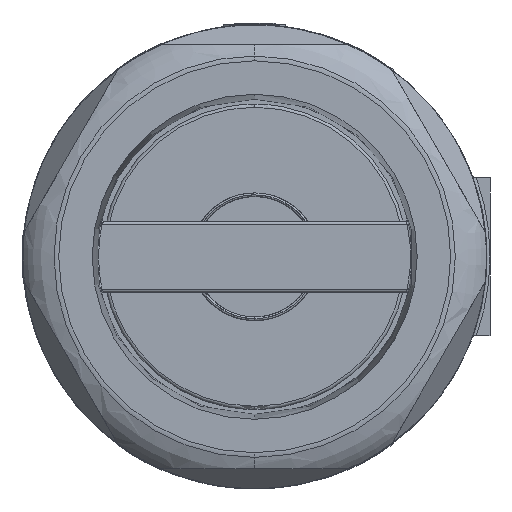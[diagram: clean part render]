
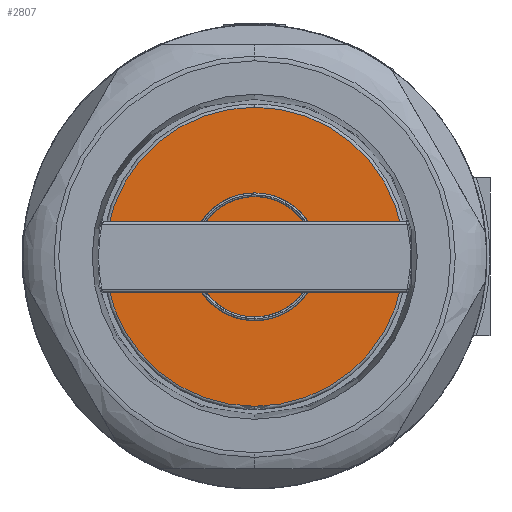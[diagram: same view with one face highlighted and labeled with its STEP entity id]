
A CAD part, left-side view. The second image highlights one B-rep face of the part: STEP entity #2807.
In plain terms, the highlighted planar face has unit normal (-1, 0, 0).
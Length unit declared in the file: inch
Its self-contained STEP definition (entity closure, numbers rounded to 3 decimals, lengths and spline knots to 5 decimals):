
#4 = CARTESIAN_POINT ( 'NONE',  ( 0.35805, 0.05339, -0.18781 ) ) ;
#45 = EDGE_CURVE ( 'NONE', #4487, #10738, #5266, .T. ) ;
#154 = AXIS2_PLACEMENT_3D ( 'NONE', #212, #6413, #12563 ) ;
#185 = CIRCLE ( 'NONE', #1043, 0.10748 ) ;
#212 = CARTESIAN_POINT ( 'NONE',  ( 0.35805, 0., 0. ) ) ;
#275 = LINE ( 'NONE', #4397, #10030 ) ;
#514 = CARTESIAN_POINT ( 'NONE',  ( 0.35805, 0.09036, -0.17923 ) ) ;
#580 = CARTESIAN_POINT ( 'NONE',  ( 0.35805, 0.08737, -0.18197 ) ) ;
#656 = CARTESIAN_POINT ( 'NONE',  ( 0.35805, 0.48308, 0. ) ) ;
#679 = CARTESIAN_POINT ( 'NONE',  ( 0.35805, 0.08878, -0.178 ) ) ;
#848 = DIRECTION ( 'NONE',  ( 0., 0., -1. ) ) ;
#889 = CARTESIAN_POINT ( 'NONE',  ( 0.35805, 0., -0.194 ) ) ;
#1043 = AXIS2_PLACEMENT_3D ( 'NONE', #8118, #1776, #3825 ) ;
#1200 = B_SPLINE_CURVE_WITH_KNOTS ( 'NONE', 3,
 ( #1751, #3675, #11835, #1676, #9839, #679, #13154, #7353, #6066, #9160, #9363, #2070, #9092, #11236, #4, #8286, #5135, #3198 ),
 .UNSPECIFIED., .F., .F.,
 ( 4, 2, 2, 2, 2, 2, 2, 2, 4 ),
 ( 0.00247, 0.00249, 0.00251, 0.00254, 0.00262, 0.00277, 0.00306, 0.00366, 0.00485 ),
 .UNSPECIFIED. ) ;
#1414 = VERTEX_POINT ( 'NONE', #8679 ) ;
#1584 = CARTESIAN_POINT ( 'NONE',  ( 0.35805, 0.03229, -0.20388 ) ) ;
#1676 = CARTESIAN_POINT ( 'NONE',  ( 0.35805, 0.08975, -0.17794 ) ) ;
#1722 = VERTEX_POINT ( 'NONE', #3177 ) ;
#1751 = CARTESIAN_POINT ( 'NONE',  ( 0.35805, 0.09062, -0.17829 ) ) ;
#1776 = DIRECTION ( 'NONE',  ( -1., 0., 0. ) ) ;
#2070 = CARTESIAN_POINT ( 'NONE',  ( 0.35805, 0.07572, -0.18158 ) ) ;
#2331 = ORIENTED_EDGE ( 'NONE', *, *, #11867, .T. ) ;
#2398 = VERTEX_POINT ( 'NONE', #889 ) ;
#2519 = CARTESIAN_POINT ( 'NONE',  ( 0.35805, 0.0779, -0.18788 ) ) ;
#2523 = FACE_BOUND ( 'NONE', #3318, .T. ) ;
#2807 = ADVANCED_FACE ( 'NONE', ( #2523, #5714, #6650 ), #10761, .F. ) ;
#3177 = CARTESIAN_POINT ( 'NONE',  ( 0.35805, 0., -0.206 ) ) ;
#3198 = CARTESIAN_POINT ( 'NONE',  ( 0.35805, 0., -0.194 ) ) ;
#3284 = EDGE_CURVE ( 'NONE', #1414, #12216, #185, .T. ) ;
#3318 = EDGE_LOOP ( 'NONE', ( #12219, #3567, #5896 ) ) ;
#3498 = CARTESIAN_POINT ( 'NONE',  ( 0.35805, 0., -0.48308 ) ) ;
#3512 = CARTESIAN_POINT ( 'NONE',  ( 0.35805, 0.0902, -0.17943 ) ) ;
#3567 = ORIENTED_EDGE ( 'NONE', *, *, #10325, .T. ) ;
#3675 = CARTESIAN_POINT ( 'NONE',  ( 0.35805, 0.09051, -0.17807 ) ) ;
#3713 = CARTESIAN_POINT ( 'NONE',  ( 0.35805, 0.08488, -0.18373 ) ) ;
#3771 = EDGE_CURVE ( 'NONE', #12216, #1414, #7669, .T. ) ;
#3825 = DIRECTION ( 'NONE',  ( 0., 0., 1. ) ) ;
#3876 = CARTESIAN_POINT ( 'NONE',  ( 0.35805, 0., 0. ) ) ;
#4397 = CARTESIAN_POINT ( 'NONE',  ( 0.35805, 0., 0. ) ) ;
#4487 = VERTEX_POINT ( 'NONE', #8183 ) ;
#4804 = EDGE_CURVE ( 'NONE', #2398, #1722, #275, .T. ) ;
#5006 = DIRECTION ( 'NONE',  ( -1., 0., 0. ) ) ;
#5128 = CARTESIAN_POINT ( 'NONE',  ( 0.35805, 0., 0.10748 ) ) ;
#5135 = CARTESIAN_POINT ( 'NONE',  ( 0.35805, 0.01551, -0.194 ) ) ;
#5187 = EDGE_LOOP ( 'NONE', ( #9671, #2331 ) ) ;
#5266 = CIRCLE ( 'NONE', #154, 0.48308 ) ;
#5586 = CARTESIAN_POINT ( 'NONE',  ( 0.35805, 0.01621, -0.206 ) ) ;
#5710 = CARTESIAN_POINT ( 'NONE',  ( 0.35805, 0.05555, -0.19741 ) ) ;
#5714 = FACE_BOUND ( 'NONE', #7607, .T. ) ;
#5797 = AXIS2_PLACEMENT_3D ( 'NONE', #6275, #8367, #12437 ) ;
#5896 = ORIENTED_EDGE ( 'NONE', *, *, #4804, .T. ) ;
#6066 = CARTESIAN_POINT ( 'NONE',  ( 0.35805, 0.08594, -0.17859 ) ) ;
#6105 = DIRECTION ( 'NONE',  ( 1., 0., 0. ) ) ;
#6260 = CARTESIAN_POINT ( 'NONE',  ( 0.35805, 0.09062, -0.17829 ) ) ;
#6275 = CARTESIAN_POINT ( 'NONE',  ( 0.35805, 0., 0. ) ) ;
#6413 = DIRECTION ( 'NONE',  ( -1., 0., 0. ) ) ;
#6577 = CARTESIAN_POINT ( 'NONE',  ( 0.35805, 0.08818, -0.18136 ) ) ;
#6650 = FACE_OUTER_BOUND ( 'NONE', #5187, .T. ) ;
#7269 = EDGE_CURVE ( 'NONE', #1722, #8732, #11464, .T. ) ;
#7353 = CARTESIAN_POINT ( 'NONE',  ( 0.35805, 0.08687, -0.17835 ) ) ;
#7607 = EDGE_LOOP ( 'NONE', ( #10420, #8846 ) ) ;
#7669 = CIRCLE ( 'NONE', #12145, 0.10748 ) ;
#7800 = CARTESIAN_POINT ( 'NONE',  ( 0.35805, 0.08933, -0.18035 ) ) ;
#7864 = CARTESIAN_POINT ( 'NONE',  ( 0.35805, 0.0897, -0.18001 ) ) ;
#8118 = CARTESIAN_POINT ( 'NONE',  ( 0.35805, 0., 0. ) ) ;
#8183 = CARTESIAN_POINT ( 'NONE',  ( 0.35805, 0., 0.48308 ) ) ;
#8286 = CARTESIAN_POINT ( 'NONE',  ( 0.35805, 0.03079, -0.19238 ) ) ;
#8367 = DIRECTION ( 'NONE',  ( -1., 0., 0. ) ) ;
#8679 = CARTESIAN_POINT ( 'NONE',  ( 0.35805, 0., -0.10748 ) ) ;
#8732 = VERTEX_POINT ( 'NONE', #6260 ) ;
#8733 = CARTESIAN_POINT ( 'NONE',  ( 0.35805, 0.09061, -0.17879 ) ) ;
#8846 = ORIENTED_EDGE ( 'NONE', *, *, #3284, .F. ) ;
#8871 = CARTESIAN_POINT ( 'NONE',  ( 0.35805, 0., -0.206 ) ) ;
#9092 = CARTESIAN_POINT ( 'NONE',  ( 0.35805, 0.07202, -0.18271 ) ) ;
#9160 = CARTESIAN_POINT ( 'NONE',  ( 0.35805, 0.08313, -0.17934 ) ) ;
#9224 = CIRCLE ( 'NONE', #5797, 0.48308 ) ;
#9363 = CARTESIAN_POINT ( 'NONE',  ( 0.35805, 0.08128, -0.1799 ) ) ;
#9671 = ORIENTED_EDGE ( 'NONE', *, *, #45, .T. ) ;
#9681 = CARTESIAN_POINT ( 'NONE',  ( 0.35805, 0.08316, -0.18481 ) ) ;
#9839 = CARTESIAN_POINT ( 'NONE',  ( 0.35805, 0.08951, -0.17795 ) ) ;
#10030 = VECTOR ( 'NONE', #11276, 39.37008 ) ;
#10219 = AXIS2_PLACEMENT_3D ( 'NONE', #656, #6105, #848 ) ;
#10325 = EDGE_CURVE ( 'NONE', #8732, #2398, #1200, .T. ) ;
#10420 = ORIENTED_EDGE ( 'NONE', *, *, #3771, .F. ) ;
#10738 = VERTEX_POINT ( 'NONE', #3498 ) ;
#10761 = PLANE ( 'NONE',  #10219 ) ;
#11236 = CARTESIAN_POINT ( 'NONE',  ( 0.35805, 0.06087, -0.18592 ) ) ;
#11276 = DIRECTION ( 'NONE',  ( 0., 0., -1. ) ) ;
#11464 = B_SPLINE_CURVE_WITH_KNOTS ( 'NONE', 3,
 ( #8871, #5586, #1584, #5710, #12876, #11668, #2519, #9681, #3713, #580, #6577, #7800, #7864, #3512, #514, #8733, #12809, #11872 ),
 .UNSPECIFIED., .F., .F.,
 ( 4, 2, 2, 2, 2, 2, 2, 2, 4 ),
 ( 0., 0.00123, 0.00185, 0.00216, 0.00232, 0.00239, 0.00243, 0.00245, 0.00247 ),
 .UNSPECIFIED. ) ;
#11668 = CARTESIAN_POINT ( 'NONE',  ( 0.35805, 0.07428, -0.18969 ) ) ;
#11835 = CARTESIAN_POINT ( 'NONE',  ( 0.35805, 0.09023, -0.17801 ) ) ;
#11867 = EDGE_CURVE ( 'NONE', #10738, #4487, #9224, .T. ) ;
#11872 = CARTESIAN_POINT ( 'NONE',  ( 0.35805, 0.09062, -0.17829 ) ) ;
#11906 = DIRECTION ( 'NONE',  ( 0., 0., 1. ) ) ;
#12145 = AXIS2_PLACEMENT_3D ( 'NONE', #3876, #5006, #11906 ) ;
#12216 = VERTEX_POINT ( 'NONE', #5128 ) ;
#12219 = ORIENTED_EDGE ( 'NONE', *, *, #7269, .T. ) ;
#12437 = DIRECTION ( 'NONE',  ( 0., 0., 1. ) ) ;
#12563 = DIRECTION ( 'NONE',  ( 0., 0., 1. ) ) ;
#12809 = CARTESIAN_POINT ( 'NONE',  ( 0.35805, 0.09074, -0.17852 ) ) ;
#12876 = CARTESIAN_POINT ( 'NONE',  ( 0.35805, 0.06323, -0.1947 ) ) ;
#13154 = CARTESIAN_POINT ( 'NONE',  ( 0.35805, 0.0883, -0.17808 ) ) ;
